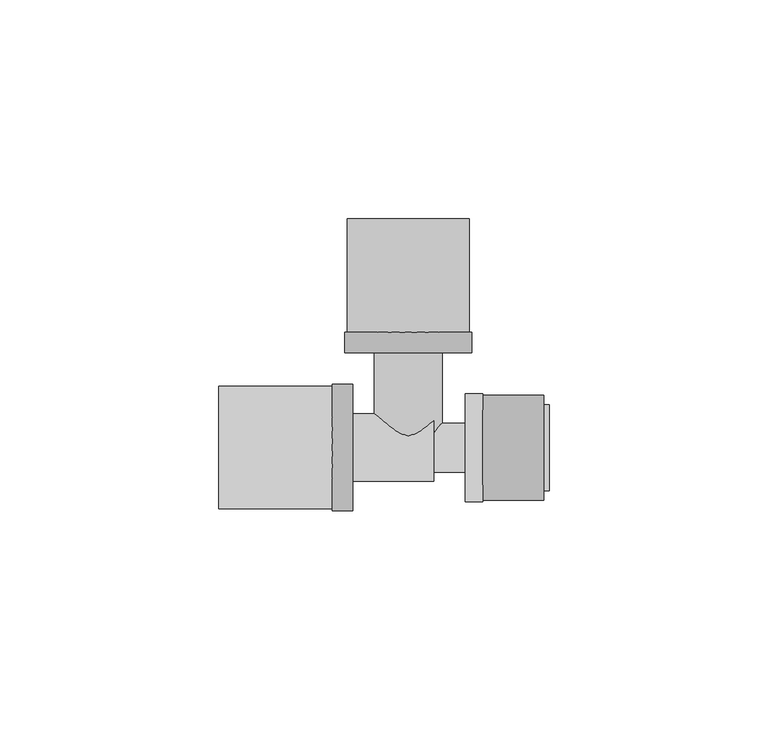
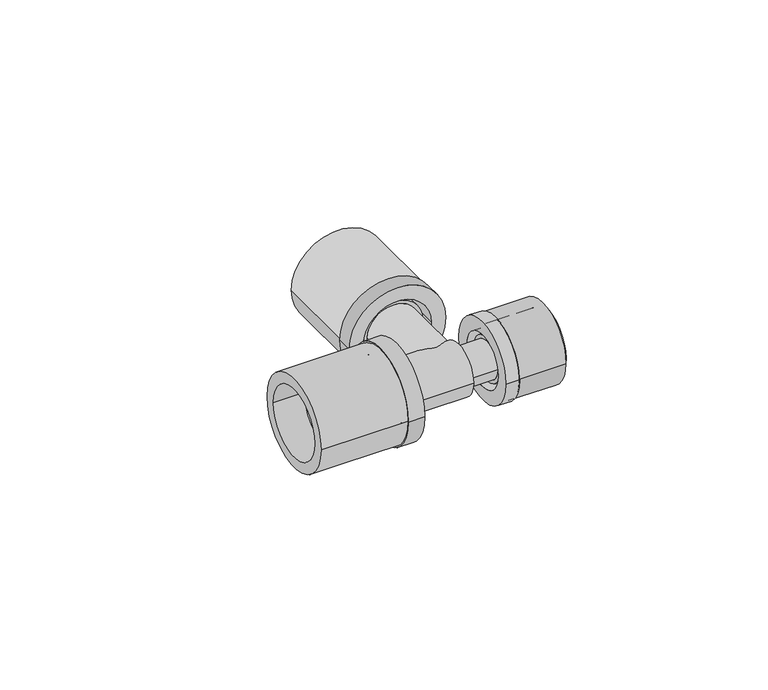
"""IFC4 building model written with IfcOpenShell, lengths in millimetres: pipe fitting geometry, FASTLOC_T-piece_LX : FSL T-Piece LX CZ."""

from ifc_helpers import new_model, si_unit, point, frame, origin, origin_2d, place, context, project, spatial, polyline, circle_curve, trimmed, segment, composite_curve, outline, extrude, source, transform, mapped, element, save
from ifc_brep_helpers import plane_surface, cylinder_surface, revolved_surface, advanced_brep


def pipe_fitting_19df1a9e(model_context):
    return source(origin(), model_context, "Body", "SolidModel", [
        extrude(outline(composite_curve([segment(trimmed(circle_curve(origin_2d(), 12.0), [point((-12.0, 0.0))], [point((12.0, 0.0))], False, "CARTESIAN"), True, "CONTINUOUS"), segment(trimmed(circle_curve(origin_2d(), 12.0), [point((12.0, 0.0))], [point((-12.0, 0.0))], False, "CARTESIAN"), True, "CONTINUOUS")], self_intersect=False), holes=[composite_curve([segment(trimmed(circle_curve(origin_2d(), 8.85), [point((-8.85, 0.0))], [point((8.85, 0.0))], True, "CARTESIAN"), True, "CONTINUOUS"), segment(trimmed(circle_curve(origin_2d(), 8.85), [point((8.85, 0.0))], [point((-8.85, 0.0))], True, "CARTESIAN"), True, "CONTINUOUS")], self_intersect=False)]), frame((17.0, 0.0, 0.0), z_axis=(1.0, 0.0, 0.0), x_axis=(0.0, 1.0, 0.0)), (0.0, 0.0, 1.0), 14.0),
        advanced_brep(
        [(17.0, 12.35, 0.0), (17.0, -12.35, 0.0), (13.0, -12.35, 0.0), (13.0, 12.35, 0.0), (32.3, 9.85, 0.0), (32.3, -9.85, 0.0), (17.0, -9.85, 0.0), (17.0, 9.85, 0.0), (13.0, 8.15, 0.0), (13.0, -8.15, 0.0), (32.3, -8.15, 0.0), (32.3, 8.15, 0.0)],
        [
            (0, 1, circle_curve(frame((17.0, 0.0, 0.0), z_axis=(-1.0, 0.0, 0.0), x_axis=(0.0, -1.0, 0.0)), 12.35)),
            (1, 2),
            (2, 3, circle_curve(frame((13.0, 0.0, 0.0), z_axis=(1.0, 0.0, 0.0), x_axis=(0.0, -1.0, 0.0)), 12.35)),
            (3, 0),
            (4, 5, circle_curve(frame((32.3, 0.0, 0.0), z_axis=(-1.0, 0.0, 0.0), x_axis=(0.0, -1.0, 0.0)), 9.85)),
            (5, 6),
            (6, 7, circle_curve(frame((17.0, 0.0, 0.0), z_axis=(1.0, 0.0, 0.0), x_axis=(0.0, -1.0, 0.0)), 9.85)),
            (7, 4),
            (8, 9, circle_curve(frame((13.0, 0.0, 0.0), z_axis=(-1.0, 0.0, 0.0), x_axis=(0.0, -1.0, 0.0)), 8.15)),
            (9, 10),
            (10, 11, circle_curve(frame((32.3, 0.0, 0.0), z_axis=(1.0, 0.0, 0.0), x_axis=(0.0, -1.0, 0.0)), 8.15)),
            (11, 8),
            (1, 0, circle_curve(frame((17.0, 0.0, 0.0), z_axis=(-1.0, 0.0, 0.0), x_axis=(0.0, 1.0, 0.0)), 12.35)),
            (3, 2, circle_curve(frame((13.0, 0.0, 0.0), z_axis=(1.0, 0.0, 0.0), x_axis=(0.0, 1.0, 0.0)), 12.35)),
            (6, 7, circle_curve(frame((17.0, 0.0, 0.0), z_axis=(-1.0, 0.0, 0.0), x_axis=(0.0, 1.0, 0.0)), 9.85)),
            (5, 4, circle_curve(frame((32.3, 0.0, 0.0), z_axis=(-1.0, 0.0, 0.0), x_axis=(0.0, 1.0, 0.0)), 9.85)),
            (10, 11, circle_curve(frame((32.3, 0.0, 0.0), z_axis=(-1.0, 0.0, 0.0), x_axis=(0.0, 1.0, 0.0)), 8.15)),
            (9, 8, circle_curve(frame((13.0, 0.0, 0.0), z_axis=(-1.0, 0.0, 0.0), x_axis=(0.0, 1.0, 0.0)), 8.15)),
        ],
        [
            cylinder_surface(frame((13.0, 0.0, 0.0), z_axis=(1.0, 0.0, 0.0), x_axis=(0.0, -1.0, 0.0)), 12.35),
            cylinder_surface(frame((13.0, 0.0, 0.0), z_axis=(1.0, 0.0, 0.0), x_axis=(0.0, -1.0, 0.0)), 9.85),
            revolved_surface(polyline([(32.3, -8.15, 0.0), (13.0, -8.15, 0.0)]), (13.0, 0.0, 0.0), (1.0, 0.0, 0.0)),
            cylinder_surface(frame((13.0, 0.0, 0.0), z_axis=(1.0, 0.0, 0.0), x_axis=(0.0, 1.0, 0.0)), 12.35),
            plane_surface(frame((17.0, 0.0, 0.0), z_axis=(1.0, 0.0, 0.0), x_axis=(0.0, 1.0, 0.0))),
            cylinder_surface(frame((13.0, 0.0, 0.0), z_axis=(1.0, 0.0, 0.0), x_axis=(0.0, 1.0, 0.0)), 9.85),
            plane_surface(frame((32.3, 0.0, 0.0), z_axis=(1.0, 0.0, 0.0), x_axis=(0.0, 1.0, 0.0))),
            revolved_surface(polyline([(32.3, 8.15, 0.0), (13.0, 8.15, 0.0)]), (13.0, 0.0, 0.0), (1.0, 0.0, 0.0)),
            plane_surface(frame((13.0, 0.0, 0.0), z_axis=(-1.0, 0.0, 0.0), x_axis=(0.0, 1.0, 0.0))),
        ],
        [
            (0, [[1, 2, 3, 4]]),
            (1, [[5, 6, 7, 8]]),
            (2, [[9, 10, 11, 12]]),
            (3, [[13, -4, 14, -2]]),
            (4, [[-13, -1], [15, -7]]),
            (5, [[16, -8, -15, -6]]),
            (6, [[-16, -5], [17, -11]]),
            (7, [[18, -12, -17, -10]]),
            (8, [[-14, -3], [-18, -9]]),
        ],
    ),
        extrude(outline(composite_curve([segment(trimmed(circle_curve(origin_2d(), 14.0), [point((14.0, 0.0))], [point((-14.0, 0.0))], False, "CARTESIAN"), True, "CONTINUOUS"), segment(trimmed(circle_curve(origin_2d(), 14.0), [point((-14.0, 0.0))], [point((14.0, 0.0))], False, "CARTESIAN"), True, "CONTINUOUS")], self_intersect=False), holes=[composite_curve([segment(trimmed(circle_curve(origin_2d(), 10.7), [point((10.7, 0.0))], [point((-10.7, 0.0))], True, "CARTESIAN"), True, "CONTINUOUS"), segment(trimmed(circle_curve(origin_2d(), 10.7), [point((-10.7, 0.0))], [point((10.7, 0.0))], True, "CARTESIAN"), True, "CONTINUOUS")], self_intersect=False)]), frame((-43.4, 0.0, 0.0), z_axis=(1.0, 0.0, 0.0), x_axis=(0.0, 1.0, 0.0)), (0.0, 0.0, 1.0), 26.0),
        advanced_brep(
        [(-17.4, -14.5, 0.0), (-17.4, 14.5, 0.0), (-12.7, 14.5, 0.0), (-12.7, -14.5, 0.0), (-34.4, -11.85, 0.0), (-34.4, 11.85, 0.0), (-17.4, 11.85, 0.0), (-17.4, -11.85, 0.0), (-12.7, -10.15, 0.0), (-12.7, 10.15, 0.0), (-34.4, 10.15, 0.0), (-34.4, -10.15, 0.0)],
        [
            (0, 1, circle_curve(frame((-17.4, 0.0, 0.0), z_axis=(1.0, 0.0, 0.0), x_axis=(0.0, 1.0, 0.0)), 14.5)),
            (1, 2),
            (2, 3, circle_curve(frame((-12.7, 0.0, 0.0), z_axis=(-1.0, 0.0, 0.0), x_axis=(0.0, 1.0, 0.0)), 14.5)),
            (3, 0),
            (4, 5, circle_curve(frame((-34.4, 0.0, 0.0), z_axis=(1.0, 0.0, 0.0), x_axis=(0.0, 1.0, 0.0)), 11.85)),
            (5, 6),
            (6, 7, circle_curve(frame((-17.4, 0.0, 0.0), z_axis=(-1.0, 0.0, 0.0), x_axis=(0.0, 1.0, 0.0)), 11.85)),
            (7, 4),
            (8, 9, circle_curve(frame((-12.7, 0.0, 0.0), z_axis=(1.0, 0.0, 0.0), x_axis=(0.0, 1.0, 0.0)), 10.15)),
            (9, 10),
            (10, 11, circle_curve(frame((-34.4, 0.0, 0.0), z_axis=(-1.0, 0.0, 0.0), x_axis=(0.0, 1.0, 0.0)), 10.15)),
            (11, 8),
            (1, 0, circle_curve(frame((-17.4, 0.0, 0.0), z_axis=(1.0, 0.0, 0.0), x_axis=(0.0, -1.0, 0.0)), 14.5)),
            (3, 2, circle_curve(frame((-12.7, 0.0, 0.0), z_axis=(-1.0, 0.0, 0.0), x_axis=(0.0, -1.0, 0.0)), 14.5)),
            (6, 7, circle_curve(frame((-17.4, 0.0, 0.0), z_axis=(1.0, 0.0, 0.0), x_axis=(0.0, -1.0, 0.0)), 11.85)),
            (5, 4, circle_curve(frame((-34.4, 0.0, 0.0), z_axis=(1.0, 0.0, 0.0), x_axis=(0.0, -1.0, 0.0)), 11.85)),
            (10, 11, circle_curve(frame((-34.4, 0.0, 0.0), z_axis=(1.0, 0.0, 0.0), x_axis=(0.0, -1.0, 0.0)), 10.15)),
            (9, 8, circle_curve(frame((-12.7, 0.0, 0.0), z_axis=(1.0, 0.0, 0.0), x_axis=(0.0, -1.0, 0.0)), 10.15)),
        ],
        [
            cylinder_surface(frame((-12.7, 0.0, 0.0), z_axis=(-1.0, 0.0, 0.0), x_axis=(0.0, 1.0, 0.0)), 14.5),
            cylinder_surface(frame((-12.7, 0.0, 0.0), z_axis=(-1.0, 0.0, 0.0), x_axis=(0.0, 1.0, 0.0)), 11.85),
            revolved_surface(polyline([(-34.4, 10.15, 0.0), (-12.7, 10.15, 0.0)]), (-12.7, 0.0, 0.0), (-1.0, 0.0, 0.0)),
            cylinder_surface(frame((-12.7, 0.0, 0.0), z_axis=(-1.0, 0.0, 0.0), x_axis=(0.0, -1.0, 0.0)), 14.5),
            plane_surface(frame((-17.4, 0.0, 0.0), z_axis=(-1.0, 0.0, 0.0), x_axis=(0.0, -1.0, 0.0))),
            cylinder_surface(frame((-12.7, 0.0, 0.0), z_axis=(-1.0, 0.0, 0.0), x_axis=(0.0, -1.0, 0.0)), 11.85),
            plane_surface(frame((-34.4, 0.0, 0.0), z_axis=(-1.0, 0.0, 0.0), x_axis=(0.0, -1.0, 0.0))),
            revolved_surface(polyline([(-34.4, -10.15, 0.0), (-12.7, -10.15, 0.0)]), (-12.7, 0.0, 0.0), (-1.0, 0.0, 0.0)),
            plane_surface(frame((-12.7, 0.0, 0.0), z_axis=(1.0, 0.0, 0.0), x_axis=(0.0, -1.0, 0.0))),
        ],
        [
            (0, [[1, 2, 3, 4]]),
            (1, [[5, 6, 7, 8]]),
            (2, [[9, 10, 11, 12]]),
            (3, [[13, -4, 14, -2]]),
            (4, [[-13, -1], [15, -7]]),
            (5, [[16, -8, -15, -6]]),
            (6, [[-16, -5], [17, -11]]),
            (7, [[18, -12, -17, -10]]),
            (8, [[-14, -3], [-18, -9]]),
        ],
    ),
        extrude(outline(composite_curve([segment(trimmed(circle_curve(origin_2d(), 14.0), [point((0.0, 14.0))], [point((0.0, -14.0))], False, "CARTESIAN"), True, "CONTINUOUS"), segment(trimmed(circle_curve(origin_2d(), 14.0), [point((0.0, -14.0))], [point((0.0, 14.0))], False, "CARTESIAN"), True, "CONTINUOUS")], self_intersect=False), holes=[composite_curve([segment(trimmed(circle_curve(origin_2d(), 10.7), [point((0.0, 10.7))], [point((0.0, -10.7))], True, "CARTESIAN"), True, "CONTINUOUS"), segment(trimmed(circle_curve(origin_2d(), 10.7), [point((0.0, -10.7))], [point((0.0, 10.7))], True, "CARTESIAN"), True, "CONTINUOUS")], self_intersect=False)]), frame((0.0, 26.4, 0.0), z_axis=(0.0, 1.0, 0.0), x_axis=(0.0, 0.0, 1.0)), (0.0, 0.0, 1.0), 26.0),
        advanced_brep(
        [(-14.5, 26.4, 0.0), (14.5, 26.4, 0.0), (14.5, 21.7, 0.0), (-14.5, 21.7, 0.0), (-11.85, 43.4, 0.0), (11.85, 43.4, 0.0), (11.85, 26.4, 0.0), (-11.85, 26.4, 0.0), (-10.15, 21.7, 0.0), (10.15, 21.7, 0.0), (10.15, 43.4, 0.0), (-10.15, 43.4, 0.0)],
        [
            (0, 1, circle_curve(frame((0.0, 26.4, 0.0), z_axis=(0.0, -1.0, 0.0), x_axis=(1.0, 0.0, 0.0)), 14.5)),
            (1, 2),
            (2, 3, circle_curve(frame((0.0, 21.7, 0.0), z_axis=(0.0, 1.0, 0.0), x_axis=(1.0, 0.0, 0.0)), 14.5)),
            (3, 0),
            (4, 5, circle_curve(frame((0.0, 43.4, 0.0), z_axis=(0.0, -1.0, 0.0), x_axis=(1.0, 0.0, 0.0)), 11.85)),
            (5, 6),
            (6, 7, circle_curve(frame((0.0, 26.4, 0.0), z_axis=(0.0, 1.0, 0.0), x_axis=(1.0, 0.0, 0.0)), 11.85)),
            (7, 4),
            (8, 9, circle_curve(frame((0.0, 21.7, 0.0), z_axis=(0.0, -1.0, 0.0), x_axis=(1.0, 0.0, 0.0)), 10.15)),
            (9, 10),
            (10, 11, circle_curve(frame((0.0, 43.4, 0.0), z_axis=(0.0, 1.0, 0.0), x_axis=(1.0, 0.0, 0.0)), 10.15)),
            (11, 8),
            (1, 0, circle_curve(frame((0.0, 26.4, 0.0), z_axis=(0.0, -1.0, 0.0), x_axis=(-1.0, 0.0, 0.0)), 14.5)),
            (3, 2, circle_curve(frame((0.0, 21.7, 0.0), z_axis=(0.0, 1.0, 0.0), x_axis=(-1.0, 0.0, 0.0)), 14.5)),
            (6, 7, circle_curve(frame((0.0, 26.4, 0.0), z_axis=(0.0, -1.0, 0.0), x_axis=(-1.0, 0.0, 0.0)), 11.85)),
            (5, 4, circle_curve(frame((0.0, 43.4, 0.0), z_axis=(0.0, -1.0, 0.0), x_axis=(-1.0, 0.0, 0.0)), 11.85)),
            (10, 11, circle_curve(frame((0.0, 43.4, 0.0), z_axis=(0.0, -1.0, 0.0), x_axis=(-1.0, 0.0, 0.0)), 10.15)),
            (9, 8, circle_curve(frame((0.0, 21.7, 0.0), z_axis=(0.0, -1.0, 0.0), x_axis=(-1.0, 0.0, 0.0)), 10.15)),
        ],
        [
            cylinder_surface(frame((0.0, 21.7, 0.0), z_axis=(0.0, 1.0, 0.0), x_axis=(1.0, 0.0, 0.0)), 14.5),
            cylinder_surface(frame((0.0, 21.7, 0.0), z_axis=(0.0, 1.0, 0.0), x_axis=(1.0, 0.0, 0.0)), 11.85),
            revolved_surface(polyline([(10.15, 43.4, 0.0), (10.15, 21.7, 0.0)]), (0.0, 21.7, 0.0), (0.0, 1.0, 0.0)),
            cylinder_surface(frame((0.0, 21.7, 0.0), z_axis=(0.0, 1.0, 0.0), x_axis=(-1.0, 0.0, 0.0)), 14.5),
            plane_surface(frame((0.0, 26.4, 0.0), z_axis=(0.0, 1.0, 0.0), x_axis=(-1.0, 0.0, 0.0))),
            cylinder_surface(frame((0.0, 21.7, 0.0), z_axis=(0.0, 1.0, 0.0), x_axis=(-1.0, 0.0, 0.0)), 11.85),
            plane_surface(frame((0.0, 43.4, 0.0), z_axis=(0.0, 1.0, 0.0), x_axis=(-1.0, 0.0, 0.0))),
            revolved_surface(polyline([(-10.15, 43.4, 0.0), (-10.15, 21.7, 0.0)]), (0.0, 21.7, 0.0), (0.0, 1.0, 0.0)),
            plane_surface(frame((0.0, 21.7, 0.0), z_axis=(0.0, -1.0, 0.0), x_axis=(-1.0, 0.0, 0.0))),
        ],
        [
            (0, [[1, 2, 3, 4]]),
            (1, [[5, 6, 7, 8]]),
            (2, [[9, 10, 11, 12]]),
            (3, [[13, -4, 14, -2]]),
            (4, [[-13, -1], [15, -7]]),
            (5, [[16, -8, -15, -6]]),
            (6, [[-16, -5], [17, -11]]),
            (7, [[18, -12, -17, -10]]),
            (8, [[-14, -3], [-18, -9]]),
        ],
    ),
        advanced_brep(
        [(14.29, 5.6, 0.0), (14.29, -5.6, 0.0), (5.85, -5.6, 0.0), (5.85, 5.6, 0.0), (17.0, 6.7, 0.0), (17.0, -6.7, 0.0), (14.29, -6.7, 0.0), (14.29, 6.7, 0.0), (32.0, 5.6, 0.0), (32.0, -5.6, 0.0), (17.0, -5.6, 0.0), (17.0, 5.6, 0.0), (4.0, 3.75, 0.0), (4.0, -3.75, 0.0), (32.0, -3.75, 0.0), (32.0, 3.75, 0.0), (-34.8, 5.75, 0.0), (-34.8, -5.75, 0.0), (4.0, -5.75, 0.0), (4.0, 5.75, 0.0), (-17.4, 7.75, 0.0), (-17.4, -7.75, 0.0), (-34.8, -7.75, 0.0), (-34.8, 7.75, 0.0), (-14.73, 8.8, 0.0), (-14.73, -8.8, 0.0), (-17.4, -8.8, 0.0), (-17.4, 8.8, 0.0), (5.85, 7.75, 0.0), (5.85, -7.75, 0.0), (-14.73, -7.75, 0.0), (-14.73, 7.75, 0.0)],
        [
            (0, 1, circle_curve(frame((14.29, 0.0, 0.0), z_axis=(-1.0, 0.0, 0.0), x_axis=(0.0, -1.0, 0.0)), 5.6)),
            (1, 2),
            (2, 3, circle_curve(frame((5.85, 0.0, 0.0), z_axis=(1.0, 0.0, 0.0), x_axis=(0.0, -1.0, 0.0)), 5.6)),
            (3, 0),
            (4, 5, circle_curve(frame((17.0, 0.0, 0.0), z_axis=(-1.0, 0.0, 0.0), x_axis=(0.0, -1.0, 0.0)), 6.7)),
            (5, 6),
            (6, 7, circle_curve(frame((14.29, 0.0, 0.0), z_axis=(1.0, 0.0, 0.0), x_axis=(0.0, -1.0, 0.0)), 6.7)),
            (7, 4),
            (8, 9, circle_curve(frame((32.0, 0.0, 0.0), z_axis=(-1.0, 0.0, 0.0), x_axis=(0.0, -1.0, 0.0)), 5.6)),
            (9, 10),
            (10, 11, circle_curve(frame((17.0, 0.0, 0.0), z_axis=(1.0, 0.0, 0.0), x_axis=(0.0, -1.0, 0.0)), 5.6)),
            (11, 8),
            (12, 13, circle_curve(frame((4.0, 0.0, 0.0), z_axis=(-1.0, 0.0, 0.0), x_axis=(0.0, -1.0, 0.0)), 3.75)),
            (13, 14),
            (14, 15, circle_curve(frame((32.0, 0.0, 0.0), z_axis=(1.0, 0.0, 0.0), x_axis=(0.0, -1.0, 0.0)), 3.75)),
            (15, 12),
            (16, 17, circle_curve(frame((-34.8, 0.0, 0.0), z_axis=(-1.0, 0.0, 0.0), x_axis=(0.0, -1.0, 0.0)), 5.75)),
            (17, 18),
            (18, 19, circle_curve(frame((4.0, 0.0, 0.0), z_axis=(1.0, 0.0, 0.0), x_axis=(0.0, -1.0, 0.0)), 5.75)),
            (19, 16),
            (20, 21, circle_curve(frame((-17.4, 0.0, 0.0), z_axis=(-1.0, 0.0, 0.0), x_axis=(0.0, -1.0, 0.0)), 7.75)),
            (21, 22),
            (22, 23, circle_curve(frame((-34.8, 0.0, 0.0), z_axis=(1.0, 0.0, 0.0), x_axis=(0.0, -1.0, 0.0)), 7.75)),
            (23, 20),
            (24, 25, circle_curve(frame((-14.73, 0.0, 0.0), z_axis=(-1.0, 0.0, 0.0), x_axis=(0.0, -1.0, 0.0)), 8.8)),
            (25, 26),
            (26, 27, circle_curve(frame((-17.4, 0.0, 0.0), z_axis=(1.0, 0.0, 0.0), x_axis=(0.0, -1.0, 0.0)), 8.8)),
            (27, 24),
            (28, 29, circle_curve(frame((5.85, 0.0, 0.0), z_axis=(-1.0, 0.0, 0.0), x_axis=(0.0, -1.0, 0.0)), 7.75)),
            (29, 30),
            (30, 31, circle_curve(frame((-14.73, 0.0, 0.0), z_axis=(1.0, 0.0, 0.0), x_axis=(0.0, -1.0, 0.0)), 7.75)),
            (31, 28),
            (28, 29, circle_curve(frame((5.85, 0.0, 0.0), z_axis=(1.0, 0.0, 0.0), x_axis=(0.0, 1.0, 0.0)), 7.75)),
            (2, 3, circle_curve(frame((5.85, 0.0, 0.0), z_axis=(-1.0, 0.0, 0.0), x_axis=(0.0, 1.0, 0.0)), 5.6)),
            (1, 0, circle_curve(frame((14.29, 0.0, 0.0), z_axis=(-1.0, 0.0, 0.0), x_axis=(0.0, 1.0, 0.0)), 5.6)),
            (6, 7, circle_curve(frame((14.29, 0.0, 0.0), z_axis=(-1.0, 0.0, 0.0), x_axis=(0.0, 1.0, 0.0)), 6.7)),
            (5, 4, circle_curve(frame((17.0, 0.0, 0.0), z_axis=(-1.0, 0.0, 0.0), x_axis=(0.0, 1.0, 0.0)), 6.7)),
            (10, 11, circle_curve(frame((17.0, 0.0, 0.0), z_axis=(-1.0, 0.0, 0.0), x_axis=(0.0, 1.0, 0.0)), 5.6)),
            (9, 8, circle_curve(frame((32.0, 0.0, 0.0), z_axis=(-1.0, 0.0, 0.0), x_axis=(0.0, 1.0, 0.0)), 5.6)),
            (14, 15, circle_curve(frame((32.0, 0.0, 0.0), z_axis=(-1.0, 0.0, 0.0), x_axis=(0.0, 1.0, 0.0)), 3.75)),
            (13, 12, circle_curve(frame((4.0, 0.0, 0.0), z_axis=(-1.0, 0.0, 0.0), x_axis=(0.0, 1.0, 0.0)), 3.75)),
            (18, 19, circle_curve(frame((4.0, 0.0, 0.0), z_axis=(-1.0, 0.0, 0.0), x_axis=(0.0, 1.0, 0.0)), 5.75)),
            (17, 16, circle_curve(frame((-34.8, 0.0, 0.0), z_axis=(-1.0, 0.0, 0.0), x_axis=(0.0, 1.0, 0.0)), 5.75)),
            (22, 23, circle_curve(frame((-34.8, 0.0, 0.0), z_axis=(-1.0, 0.0, 0.0), x_axis=(0.0, 1.0, 0.0)), 7.75)),
            (21, 20, circle_curve(frame((-17.4, 0.0, 0.0), z_axis=(-1.0, 0.0, 0.0), x_axis=(0.0, 1.0, 0.0)), 7.75)),
            (26, 27, circle_curve(frame((-17.4, 0.0, 0.0), z_axis=(-1.0, 0.0, 0.0), x_axis=(0.0, 1.0, 0.0)), 8.8)),
            (25, 24, circle_curve(frame((-14.73, 0.0, 0.0), z_axis=(-1.0, 0.0, 0.0), x_axis=(0.0, 1.0, 0.0)), 8.8)),
            (30, 31, circle_curve(frame((-14.73, 0.0, 0.0), z_axis=(-1.0, 0.0, 0.0), x_axis=(0.0, 1.0, 0.0)), 7.75)),
        ],
        [
            cylinder_surface(frame((0.0, 0.0, 0.0), z_axis=(1.0, 0.0, 0.0), x_axis=(0.0, -1.0, 0.0)), 5.6),
            cylinder_surface(frame((0.0, 0.0, 0.0), z_axis=(1.0, 0.0, 0.0), x_axis=(0.0, -1.0, 0.0)), 6.7),
            revolved_surface(polyline([(32.0, -3.75, 0.0), (4.0, -3.75, 0.0)]), (0.0, 0.0, 0.0), (1.0, 0.0, 0.0)),
            revolved_surface(polyline([(4.0, -5.75, 0.0), (-34.8, -5.75, 0.0)]), (0.0, 0.0, 0.0), (1.0, 0.0, 0.0)),
            cylinder_surface(frame((0.0, 0.0, 0.0), z_axis=(1.0, 0.0, 0.0), x_axis=(0.0, -1.0, 0.0)), 7.75),
            cylinder_surface(frame((0.0, 0.0, 0.0), z_axis=(1.0, 0.0, 0.0), x_axis=(0.0, -1.0, 0.0)), 8.8),
            plane_surface(frame((5.85, 0.0, 0.0), z_axis=(1.0, 0.0, 0.0), x_axis=(0.0, 1.0, 0.0))),
            cylinder_surface(frame((0.0, 0.0, 0.0), z_axis=(1.0, 0.0, 0.0), x_axis=(0.0, 1.0, 0.0)), 5.6),
            plane_surface(frame((14.29, 0.0, 0.0), z_axis=(-1.0, 0.0, 0.0), x_axis=(0.0, 1.0, 0.0))),
            cylinder_surface(frame((0.0, 0.0, 0.0), z_axis=(1.0, 0.0, 0.0), x_axis=(0.0, 1.0, 0.0)), 6.7),
            plane_surface(frame((17.0, 0.0, 0.0), z_axis=(1.0, 0.0, 0.0), x_axis=(0.0, 1.0, 0.0))),
            plane_surface(frame((32.0, 0.0, 0.0), z_axis=(1.0, 0.0, 0.0), x_axis=(0.0, 1.0, 0.0))),
            revolved_surface(polyline([(32.0, 3.75, 0.0), (4.0, 3.75, 0.0)]), (0.0, 0.0, 0.0), (1.0, 0.0, 0.0)),
            plane_surface(frame((4.0, 0.0, 0.0), z_axis=(-1.0, 0.0, 0.0), x_axis=(0.0, 1.0, 0.0))),
            revolved_surface(polyline([(4.0, 5.75, 0.0), (-34.8, 5.75, 0.0)]), (0.0, 0.0, 0.0), (1.0, 0.0, 0.0)),
            plane_surface(frame((-34.8, 0.0, 0.0), z_axis=(-1.0, 0.0, 0.0), x_axis=(0.0, 1.0, 0.0))),
            cylinder_surface(frame((0.0, 0.0, 0.0), z_axis=(1.0, 0.0, 0.0), x_axis=(0.0, 1.0, 0.0)), 7.75),
            plane_surface(frame((-17.4, 0.0, 0.0), z_axis=(-1.0, 0.0, 0.0), x_axis=(0.0, 1.0, 0.0))),
            cylinder_surface(frame((0.0, 0.0, 0.0), z_axis=(1.0, 0.0, 0.0), x_axis=(0.0, 1.0, 0.0)), 8.8),
            plane_surface(frame((-14.73, 0.0, 0.0), z_axis=(1.0, 0.0, 0.0), x_axis=(0.0, 1.0, 0.0))),
        ],
        [
            (0, [[1, 2, 3, 4]]),
            (1, [[5, 6, 7, 8]]),
            (0, [[9, 10, 11, 12]]),
            (2, [[13, 14, 15, 16]]),
            (3, [[17, 18, 19, 20]]),
            (4, [[21, 22, 23, 24]]),
            (5, [[25, 26, 27, 28]]),
            (4, [[29, 30, 31, 32]]),
            (6, [[33, -29], [34, -3]]),
            (7, [[35, -4, -34, -2]]),
            (8, [[36, -7], [-35, -1]]),
            (9, [[37, -8, -36, -6]]),
            (10, [[-37, -5], [38, -11]]),
            (7, [[39, -12, -38, -10]]),
            (11, [[-39, -9], [40, -15]]),
            (12, [[41, -16, -40, -14]]),
            (13, [[42, -19], [-41, -13]]),
            (14, [[43, -20, -42, -18]]),
            (15, [[44, -23], [-43, -17]]),
            (16, [[45, -24, -44, -22]]),
            (17, [[46, -27], [-45, -21]]),
            (18, [[47, -28, -46, -26]]),
            (19, [[-47, -25], [48, -31]]),
            (16, [[-33, -32, -48, -30]]),
        ],
    ),
        advanced_brep(
        [(5.75, 43.8, 0.0), (-5.75, 43.8, 0.0), (-5.75, 0.0, 0.0), (5.75, 0.0, 0.0), (7.75, 0.0, 0.0), (-7.75, 0.0, 0.0), (-7.75, 23.73, 0.0), (7.75, 23.73, 0.0), (8.8, 23.73, 0.0), (-8.8, 23.73, 0.0), (-8.8, 26.4, 0.0), (8.8, 26.4, 0.0), (7.75, 26.4, 0.0), (-7.75, 26.4, 0.0), (-7.75, 43.8, 0.0), (7.75, 43.8, 0.0)],
        [
            (0, 1, circle_curve(frame((0.0, 43.8, 0.0), z_axis=(0.0, 1.0, 0.0), x_axis=(-1.0, 0.0, 0.0)), 5.75)),
            (1, 2),
            (2, 3, circle_curve(frame((0.0, 0.0, 0.0), z_axis=(0.0, -1.0, 0.0), x_axis=(-1.0, 0.0, 0.0)), 5.75)),
            (3, 0),
            (4, 5, circle_curve(frame((0.0, 0.0, 0.0), z_axis=(0.0, 1.0, 0.0), x_axis=(-1.0, 0.0, 0.0)), 7.75)),
            (5, 6),
            (6, 7, circle_curve(frame((0.0, 23.73, 0.0), z_axis=(0.0, -1.0, 0.0), x_axis=(-1.0, 0.0, 0.0)), 7.75)),
            (7, 4),
            (8, 9, circle_curve(frame((0.0, 23.73, 0.0), z_axis=(0.0, 1.0, 0.0), x_axis=(-1.0, 0.0, 0.0)), 8.8)),
            (9, 10),
            (10, 11, circle_curve(frame((0.0, 26.4, 0.0), z_axis=(0.0, -1.0, 0.0), x_axis=(-1.0, 0.0, 0.0)), 8.8)),
            (11, 8),
            (12, 13, circle_curve(frame((0.0, 26.4, 0.0), z_axis=(0.0, 1.0, 0.0), x_axis=(-1.0, 0.0, 0.0)), 7.75)),
            (13, 14),
            (14, 15, circle_curve(frame((0.0, 43.8, 0.0), z_axis=(0.0, -1.0, 0.0), x_axis=(-1.0, 0.0, 0.0)), 7.75)),
            (15, 12),
            (1, 0, circle_curve(frame((0.0, 43.8, 0.0), z_axis=(0.0, 1.0, 0.0), x_axis=(1.0, 0.0, 0.0)), 5.75)),
            (3, 2, circle_curve(frame((0.0, 0.0, 0.0), z_axis=(0.0, -1.0, 0.0), x_axis=(1.0, 0.0, 0.0)), 5.75)),
            (4, 5, circle_curve(frame((0.0, 0.0, 0.0), z_axis=(0.0, -1.0, 0.0), x_axis=(1.0, 0.0, 0.0)), 7.75)),
            (7, 6, circle_curve(frame((0.0, 23.73, 0.0), z_axis=(0.0, -1.0, 0.0), x_axis=(1.0, 0.0, 0.0)), 7.75)),
            (8, 9, circle_curve(frame((0.0, 23.73, 0.0), z_axis=(0.0, -1.0, 0.0), x_axis=(1.0, 0.0, 0.0)), 8.8)),
            (11, 10, circle_curve(frame((0.0, 26.4, 0.0), z_axis=(0.0, -1.0, 0.0), x_axis=(1.0, 0.0, 0.0)), 8.8)),
            (12, 13, circle_curve(frame((0.0, 26.4, 0.0), z_axis=(0.0, -1.0, 0.0), x_axis=(1.0, 0.0, 0.0)), 7.75)),
            (15, 14, circle_curve(frame((0.0, 43.8, 0.0), z_axis=(0.0, -1.0, 0.0), x_axis=(1.0, 0.0, 0.0)), 7.75)),
        ],
        [
            revolved_surface(polyline([(-5.75, 0.0, 0.0), (-5.75, 43.8, 0.0)]), (0.0, 0.0, 0.0), (0.0, -1.0, 0.0)),
            cylinder_surface(frame((0.0, 0.0, 0.0), z_axis=(0.0, -1.0, 0.0), x_axis=(-1.0, 0.0, 0.0)), 7.75),
            cylinder_surface(frame((0.0, 0.0, 0.0), z_axis=(0.0, -1.0, 0.0), x_axis=(-1.0, 0.0, 0.0)), 8.8),
            revolved_surface(polyline([(5.75, 0.0, 0.0), (5.75, 43.8, 0.0)]), (0.0, 0.0, 0.0), (0.0, -1.0, 0.0)),
            plane_surface(frame((0.0, 0.0, 0.0), z_axis=(0.0, -1.0, 0.0), x_axis=(1.0, 0.0, 0.0))),
            cylinder_surface(frame((0.0, 0.0, 0.0), z_axis=(0.0, -1.0, 0.0), x_axis=(1.0, 0.0, 0.0)), 7.75),
            plane_surface(frame((0.0, 23.73, 0.0), z_axis=(0.0, -1.0, 0.0), x_axis=(1.0, 0.0, 0.0))),
            cylinder_surface(frame((0.0, 0.0, 0.0), z_axis=(0.0, -1.0, 0.0), x_axis=(1.0, 0.0, 0.0)), 8.8),
            plane_surface(frame((0.0, 26.4, 0.0), z_axis=(0.0, 1.0, 0.0), x_axis=(1.0, 0.0, 0.0))),
            plane_surface(frame((0.0, 43.8, 0.0), z_axis=(0.0, 1.0, 0.0), x_axis=(1.0, 0.0, 0.0))),
        ],
        [
            (0, [[1, 2, 3, 4]]),
            (1, [[5, 6, 7, 8]]),
            (2, [[9, 10, 11, 12]]),
            (1, [[13, 14, 15, 16]]),
            (3, [[17, -4, 18, -2]]),
            (4, [[19, -5], [-18, -3]]),
            (5, [[-19, -8, 20, -6]]),
            (6, [[21, -9], [-20, -7]]),
            (7, [[-21, -12, 22, -10]]),
            (8, [[-22, -11], [23, -13]]),
            (5, [[-23, -16, 24, -14]]),
            (9, [[-24, -15], [-17, -1]]),
        ],
    ),
    ])


if __name__ == "__main__":
    model = new_model("IFC4")
    model_context = context("Model", 3, world=origin())
    ifc_project = project(units=[si_unit("LENGTHUNIT", "METRE", prefix="MILLI")], contexts=[model_context])
    site = spatial("IfcSite", under=ifc_project)
    building = spatial("IfcBuilding", under=site)
    placement = place(None, origin())
    pipe_fitting_shape = pipe_fitting_19df1a9e(model_context)
    element("IfcPipeFitting", 1, ObjectType="FASTLOC_T-piece_LX : FSL T-Piece LX CZ", at=placement, inside=building, context=model_context, shape_type="MappedRepresentation", body=[
        mapped(pipe_fitting_shape, transform((0.0, 0.0, 0.0), x_axis=(1.0, 0.0, 0.0), y_axis=(0.0, 1.0, 0.0), z_axis=(0.0, 0.0, 1.0))),
    ])
    save(model, "model.ifc")
